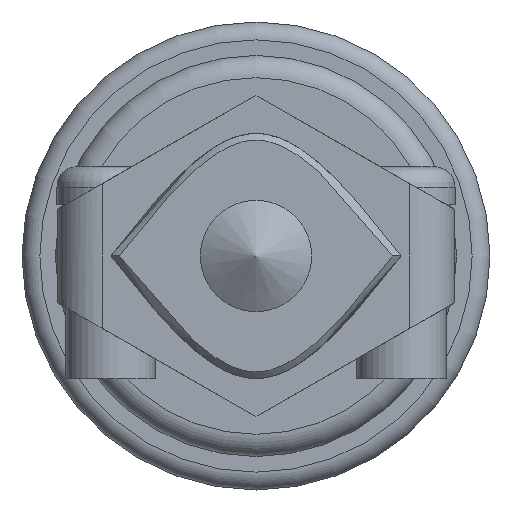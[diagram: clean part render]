
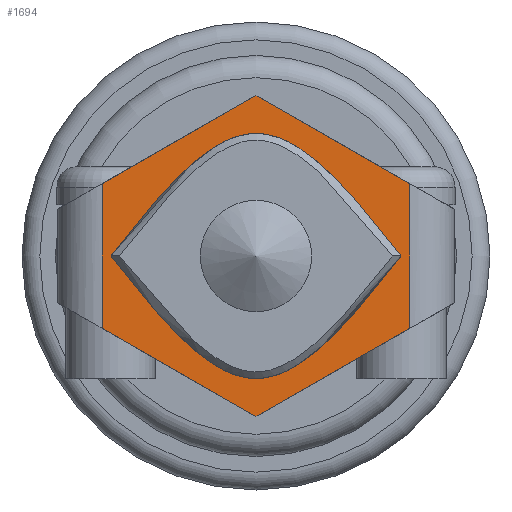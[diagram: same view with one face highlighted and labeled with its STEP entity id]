
A CAD part, left-side view. The second image highlights one B-rep face of the part: STEP entity #1694.
In plain terms, the highlighted planar face has unit normal (-1, 0, 0).
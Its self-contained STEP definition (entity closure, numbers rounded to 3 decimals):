
#10 = CARTESIAN_POINT ( 'NONE',  ( 111.691, 48.161, 57.853 ) ) ;
#11 = CARTESIAN_POINT ( 'NONE',  ( 111.691, 58.994, 60.603 ) ) ;
#94 = ORIENTED_EDGE ( 'NONE', *, *, #803, .F. ) ;
#100 = CARTESIAN_POINT ( 'NONE',  ( 111.691, 48.161, 57.853 ) ) ;
#101 = ORIENTED_EDGE ( 'NONE', *, *, #1610, .F. ) ;
#102 = VERTEX_POINT ( 'NONE', #1482 ) ;
#133 = EDGE_CURVE ( 'NONE', #1881, #1215, #2039, .T. ) ;
#160 = DIRECTION ( 'NONE',  ( 0., -0.868, -0.497 ) ) ;
#168 = EDGE_CURVE ( 'NONE', #102, #678, #2406, .T. ) ;
#181 = DIRECTION ( 'NONE',  ( 1., 0., 0. ) ) ;
#262 = EDGE_LOOP ( 'NONE', ( #101, #94 ) ) ;
#313 = CARTESIAN_POINT ( 'NONE',  ( 111.691, 47.761, 61.099 ) ) ;
#333 = LINE ( 'NONE', #1430, #2111 ) ;
#562 = FACE_OUTER_BOUND ( 'NONE', #1968, .T. ) ;
#589 = PLANE ( 'NONE',  #1459 ) ;
#635 = CARTESIAN_POINT ( 'NONE',  ( 111.691, 54.661, 65.053 ) ) ;
#662 = CARTESIAN_POINT ( 'NONE',  ( 111.691, 45.761, 59.953 ) ) ;
#678 = VERTEX_POINT ( 'NONE', #313 ) ;
#681 = LINE ( 'NONE', #1045, #1067 ) ;
#724 = DIRECTION ( 'NONE',  ( 0., -0.868, 0.497 ) ) ;
#780 = CARTESIAN_POINT ( 'NONE',  ( 111.691, 61.161, 57.853 ) ) ;
#803 = EDGE_CURVE ( 'NONE', #1632, #1988, #1053, .T. ) ;
#853 = ORIENTED_EDGE ( 'NONE', *, *, #1342, .T. ) ;
#856 = CARTESIAN_POINT ( 'NONE',  ( 111.691, 61.561, 54.607 ) ) ;
#900 = DIRECTION ( 'NONE',  ( 0., 0., -1. ) ) ;
#927 = EDGE_CURVE ( 'NONE', #1924, #1881, #681, .T. ) ;
#935 = ORIENTED_EDGE ( 'NONE', *, *, #168, .T. ) ;
#951 = CARTESIAN_POINT ( 'NONE',  ( 111.691, 50.327, 55.103 ) ) ;
#974 = CARTESIAN_POINT ( 'NONE',  ( 111.691, 61.161, 57.853 ) ) ;
#987 = VECTOR ( 'NONE', #1511, 1000. ) ;
#1044 = ORIENTED_EDGE ( 'NONE', *, *, #1628, .T. ) ;
#1045 = CARTESIAN_POINT ( 'NONE',  ( 111.691, 61.561, 59.953 ) ) ;
#1053 = B_SPLINE_CURVE_WITH_KNOTS ( 'NONE', 3,
 ( #100, #1704, #1508, #11, #780 ),
 .UNSPECIFIED., .F., .F.,
 ( 4, 1, 4 ),
 ( 0., 0.5, 1. ),
 .UNSPECIFIED. ) ;
#1058 = CARTESIAN_POINT ( 'NONE',  ( 111.691, 61.161, 57.853 ) ) ;
#1067 = VECTOR ( 'NONE', #900, 1000. ) ;
#1113 = CARTESIAN_POINT ( 'NONE',  ( 111.691, 63.561, 55.753 ) ) ;
#1128 = CARTESIAN_POINT ( 'NONE',  ( 111.691, 63.561, 59.953 ) ) ;
#1141 = CARTESIAN_POINT ( 'NONE',  ( 111.691, 58.994, 55.103 ) ) ;
#1142 = VECTOR ( 'NONE', #2045, 1000. ) ;
#1194 = CARTESIAN_POINT ( 'NONE',  ( 111.691, 54.661, 50.653 ) ) ;
#1215 = VERTEX_POINT ( 'NONE', #1194 ) ;
#1272 = EDGE_CURVE ( 'NONE', #1215, #102, #333, .T. ) ;
#1293 = CARTESIAN_POINT ( 'NONE',  ( 111.691, 48.161, 57.853 ) ) ;
#1313 = FACE_BOUND ( 'NONE', #262, .T. ) ;
#1339 = DIRECTION ( 'NONE',  ( 0., 0., 1. ) ) ;
#1342 = EDGE_CURVE ( 'NONE', #678, #1376, #2119, .T. ) ;
#1348 = ORIENTED_EDGE ( 'NONE', *, *, #1272, .T. ) ;
#1376 = VERTEX_POINT ( 'NONE', #635 ) ;
#1430 = CARTESIAN_POINT ( 'NONE',  ( 111.691, 45.761, 55.753 ) ) ;
#1459 = AXIS2_PLACEMENT_3D ( 'NONE', #1868, #181, #1339 ) ;
#1482 = CARTESIAN_POINT ( 'NONE',  ( 111.691, 47.761, 54.607 ) ) ;
#1486 = LINE ( 'NONE', #1128, #1142 ) ;
#1508 = CARTESIAN_POINT ( 'NONE',  ( 111.691, 54.661, 66.103 ) ) ;
#1511 = DIRECTION ( 'NONE',  ( 0., 0., 1. ) ) ;
#1529 = VECTOR ( 'NONE', #2294, 1000. ) ;
#1610 = EDGE_CURVE ( 'NONE', #1988, #1632, #1771, .T. ) ;
#1628 = EDGE_CURVE ( 'NONE', #1376, #1924, #1486, .T. ) ;
#1632 = VERTEX_POINT ( 'NONE', #1293 ) ;
#1668 = CARTESIAN_POINT ( 'NONE',  ( 111.691, 54.661, 49.603 ) ) ;
#1694 = ADVANCED_FACE ( 'NONE', ( #562, #1313 ), #589, .F. ) ;
#1704 = CARTESIAN_POINT ( 'NONE',  ( 111.691, 50.327, 60.603 ) ) ;
#1770 = ORIENTED_EDGE ( 'NONE', *, *, #133, .T. ) ;
#1771 = B_SPLINE_CURVE_WITH_KNOTS ( 'NONE', 3,
 ( #974, #1141, #1668, #951, #10 ),
 .UNSPECIFIED., .F., .F.,
 ( 4, 1, 4 ),
 ( 0., 0.5, 1. ),
 .UNSPECIFIED. ) ;
#1809 = VECTOR ( 'NONE', #160, 1000. ) ;
#1816 = CARTESIAN_POINT ( 'NONE',  ( 111.691, 61.561, 61.099 ) ) ;
#1868 = CARTESIAN_POINT ( 'NONE',  ( 111.691, 63.561, 59.953 ) ) ;
#1874 = CARTESIAN_POINT ( 'NONE',  ( 111.691, 47.761, 59.953 ) ) ;
#1881 = VERTEX_POINT ( 'NONE', #856 ) ;
#1924 = VERTEX_POINT ( 'NONE', #1816 ) ;
#1968 = EDGE_LOOP ( 'NONE', ( #1348, #935, #853, #1044, #2358, #1770 ) ) ;
#1988 = VERTEX_POINT ( 'NONE', #1058 ) ;
#2039 = LINE ( 'NONE', #1113, #1809 ) ;
#2045 = DIRECTION ( 'NONE',  ( 0., 0.868, -0.497 ) ) ;
#2111 = VECTOR ( 'NONE', #724, 1000. ) ;
#2119 = LINE ( 'NONE', #662, #1529 ) ;
#2294 = DIRECTION ( 'NONE',  ( 0., 0.868, 0.497 ) ) ;
#2358 = ORIENTED_EDGE ( 'NONE', *, *, #927, .T. ) ;
#2406 = LINE ( 'NONE', #1874, #987 ) ;
